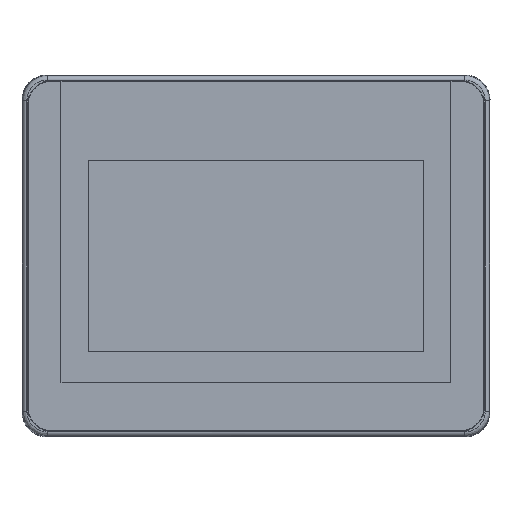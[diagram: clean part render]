
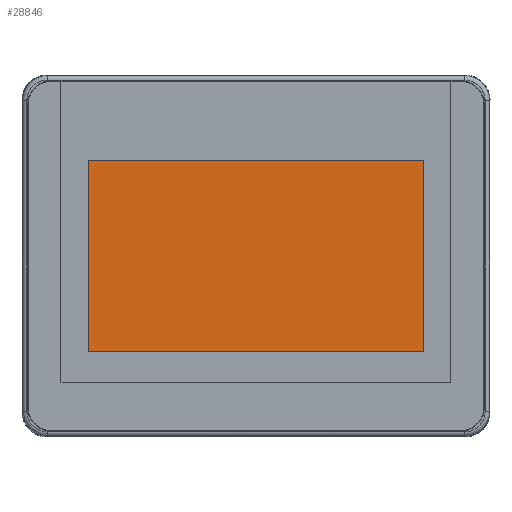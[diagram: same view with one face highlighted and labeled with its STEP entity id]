
A CAD part, top view. The second image highlights one B-rep face of the part: STEP entity #28846.
In plain terms, the highlighted planar face has unit normal (0, 0, 1).
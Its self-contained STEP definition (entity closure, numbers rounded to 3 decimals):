
#3140 = EDGE_CURVE ( 'NONE', #60669, #45161, #23769, .T. ) ;
#5070 = VERTEX_POINT ( 'NONE', #5865 ) ;
#5865 = CARTESIAN_POINT ( 'NONE',  ( 187.27, 26.805, 4.487 ) ) ;
#9302 = DIRECTION ( 'NONE',  ( 0., 1., 0. ) ) ;
#14057 = AXIS2_PLACEMENT_3D ( 'NONE', #15216, #38192, #61012 ) ;
#15216 = CARTESIAN_POINT ( 'NONE',  ( 140., 0., 4.487 ) ) ;
#19094 = EDGE_CURVE ( 'NONE', #45161, #5070, #37915, .T. ) ;
#19141 = CARTESIAN_POINT ( 'NONE',  ( 92.73, -26.805, 4.487 ) ) ;
#22362 = EDGE_CURVE ( 'NONE', #5070, #49205, #26624, .T. ) ;
#23769 = LINE ( 'NONE', #46622, #46983 ) ;
#24575 = VECTOR ( 'NONE', #9302, 1000. ) ;
#24899 = LINE ( 'NONE', #47723, #58183 ) ;
#26192 = PLANE ( 'NONE',  #14057 ) ;
#26436 = VECTOR ( 'NONE', #72324, 1000. ) ;
#26624 = LINE ( 'NONE', #49451, #26436 ) ;
#28846 = ADVANCED_FACE ( 'NONE', ( #60249 ), #26192, .F. ) ;
#30137 = ORIENTED_EDGE ( 'NONE', *, *, #34369, .T. ) ;
#34369 = EDGE_CURVE ( 'NONE', #49205, #60669, #24899, .T. ) ;
#37915 = LINE ( 'NONE', #60737, #24575 ) ;
#38192 = DIRECTION ( 'NONE',  ( 0., 0., -1. ) ) ;
#45161 = VERTEX_POINT ( 'NONE', #49527 ) ;
#46607 = EDGE_LOOP ( 'NONE', ( #53832, #30137, #53695, #67376 ) ) ;
#46622 = CARTESIAN_POINT ( 'NONE',  ( 187.27, -26.805, 4.487 ) ) ;
#46983 = VECTOR ( 'NONE', #69489, 1000. ) ;
#47723 = CARTESIAN_POINT ( 'NONE',  ( 92.73, -26.805, 4.487 ) ) ;
#49205 = VERTEX_POINT ( 'NONE', #72010 ) ;
#49451 = CARTESIAN_POINT ( 'NONE',  ( 92.73, 26.805, 4.487 ) ) ;
#49527 = CARTESIAN_POINT ( 'NONE',  ( 187.27, -26.805, 4.487 ) ) ;
#53695 = ORIENTED_EDGE ( 'NONE', *, *, #3140, .T. ) ;
#53832 = ORIENTED_EDGE ( 'NONE', *, *, #22362, .T. ) ;
#58183 = VECTOR ( 'NONE', #70613, 1000. ) ;
#60249 = FACE_OUTER_BOUND ( 'NONE', #46607, .T. ) ;
#60669 = VERTEX_POINT ( 'NONE', #19141 ) ;
#60737 = CARTESIAN_POINT ( 'NONE',  ( 187.27, 26.805, 4.487 ) ) ;
#61012 = DIRECTION ( 'NONE',  ( -1., 0., 0. ) ) ;
#67376 = ORIENTED_EDGE ( 'NONE', *, *, #19094, .T. ) ;
#69489 = DIRECTION ( 'NONE',  ( 1., 0., 0. ) ) ;
#70613 = DIRECTION ( 'NONE',  ( 0., -1., 0. ) ) ;
#72010 = CARTESIAN_POINT ( 'NONE',  ( 92.73, 26.805, 4.487 ) ) ;
#72324 = DIRECTION ( 'NONE',  ( -1., 0., 0. ) ) ;
